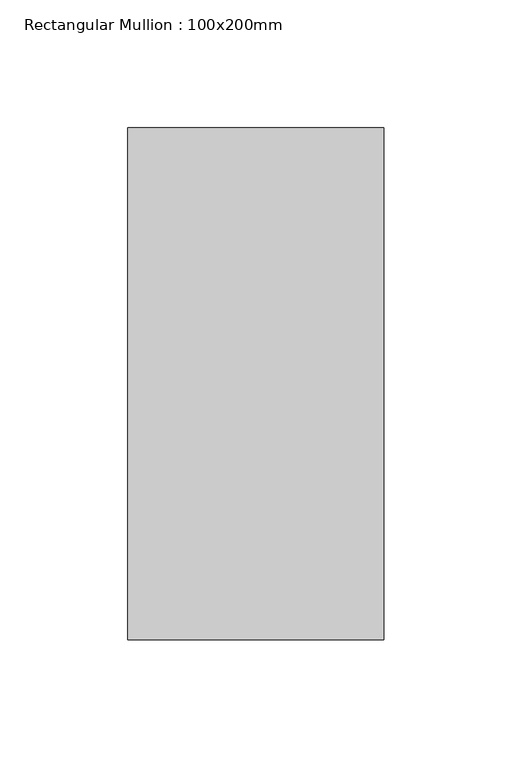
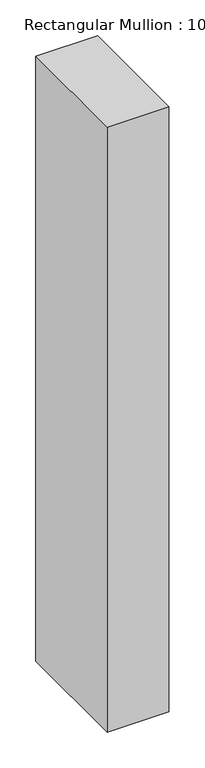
"""IFC4 building model written with IfcOpenShell, lengths in millimetres: member geometry, Rectangular Mullion : 100x200mm."""

from ifc_helpers import new_model, si_unit, frame, origin, place, context, project, spatial, polyline, outline, extrude, source, transform, mapped, element, save


def rectangular_mullion_100x200mm_ceb383c9(model_context):
    return source(origin(), model_context, "Body", "SweptSolid", [
        extrude(outline(polyline([(0.0, 100.0), (0.0, -100.0), (-100.0, -100.0), (-100.0, 100.0), (0.0, 100.0)])), frame((0.0, 0.0, -1035.0006915), z_axis=(0.0, 0.0, 1.0), x_axis=(1.0, 0.0, 0.0)), (0.0, 0.0, 1.0), 1035.0006915),
    ])


if __name__ == "__main__":
    model = new_model("IFC4")
    model_context = context("Model", 3, world=origin())
    ifc_project = project(units=[si_unit("LENGTHUNIT", "METRE", prefix="MILLI")], contexts=[model_context])
    site = spatial("IfcSite", under=ifc_project)
    building = spatial("IfcBuilding", under=site)
    placement = place(None, origin())
    rectangular_mullion_100x200mm_shape = rectangular_mullion_100x200mm_ceb383c9(model_context)
    element("IfcMember", 1, ObjectType="Rectangular Mullion : 100x200mm", at=placement, inside=building, context=model_context, shape_type="MappedRepresentation", body=[
        mapped(rectangular_mullion_100x200mm_shape, transform((0.0, 0.0, 0.0), x_axis=(1.0, 0.0, 0.0), y_axis=(0.0, 1.0, 0.0), z_axis=(0.0, 0.0, 1.0))),
    ])
    save(model, "model.ifc")
